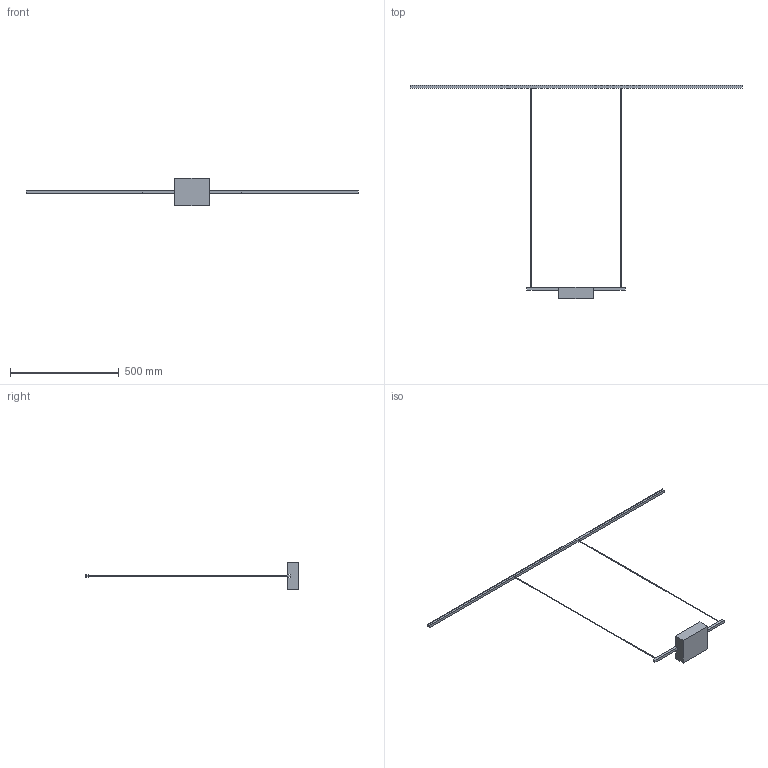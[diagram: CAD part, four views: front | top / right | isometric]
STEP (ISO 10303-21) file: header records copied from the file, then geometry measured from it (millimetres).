
FILE_DESCRIPTION (( 'STEP AP214' ), '1' );
FILE_NAME ('LP18260.STEP', '2020-01-31T19:31:52', ( '' ), ( '' ), 'SwSTEP 2.0', 'SolidWorks 2018', '' );
FILE_SCHEMA (( 'AUTOMOTIVE_DESIGN' ));
Length unit declared in the file: inch
Products named in the file (1): LP18260
Bounding box: 1524 x 977.9 x 127 mm (x, y, z)
Volume: 1323108 mm3; surface area: 205486.5 mm2
Topology: 1 solids, 1 shells, 46 faces, 116 edges, 76 vertices
Faces by surface type: plane 34, cylinder 12
Entity records: 1416 total; most frequent: CARTESIAN_POINT 239, DIRECTION 234, ORIENTED_EDGE 232, EDGE_CURVE 116, LINE 92, VECTOR 92, VERTEX_POINT 76, AXIS2_PLACEMENT_3D 71
